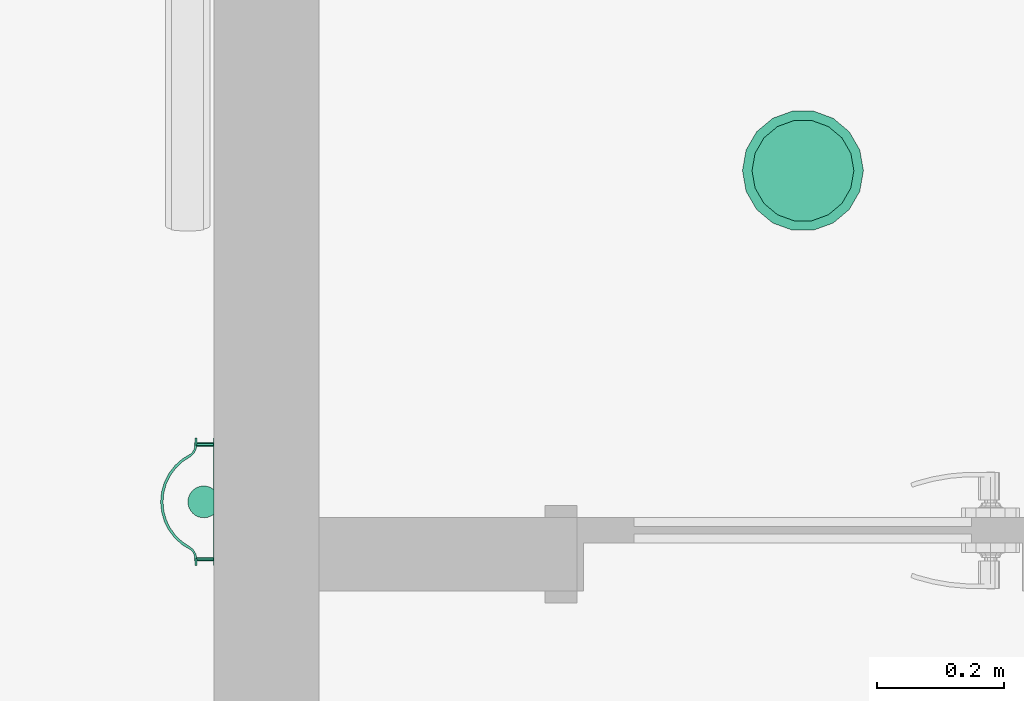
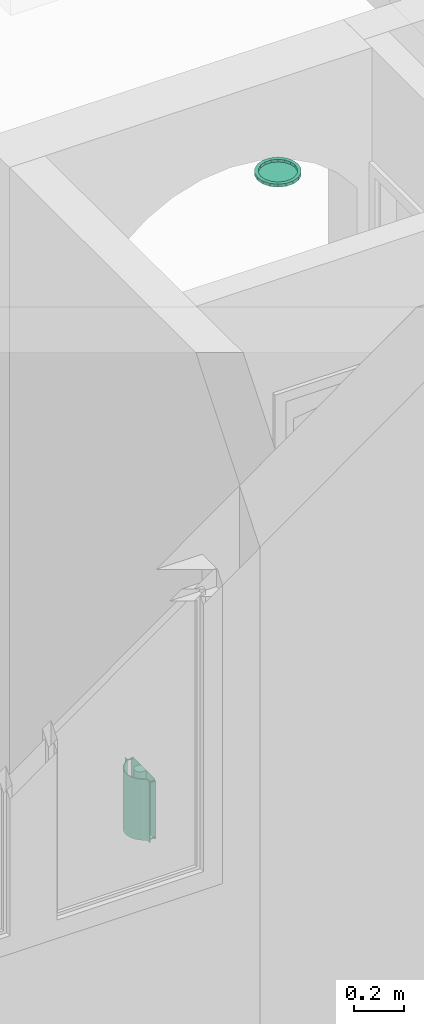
# One storey, part 47 of 77: 2 flow terminals.
"""IFC2X3 building model written with IfcOpenShell, lengths in inches."""

from ifc_helpers import new_model, entity, si_unit, converted_unit, derived_unit, money_unit, direction, frame, origin_with_axes, place, context, subcontext, project, spatial, open_shell, faceted_brep, surface_model, source, transform, mapped, type_object, element, save


model = new_model("IFC2X3")

# Units and contexts
model_context = context("Model", 3, precision=0.000393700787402, world=origin_with_axes(), true_north=direction((0.0, 1.0)))
body_context = subcontext(model_context, "Body", "Model", "MODEL_VIEW")
ifc_project = project(units=[converted_unit("LENGTHUNIT", "INCH", entity("IfcPositiveLengthMeasure", 0.0254), si_unit("LENGTHUNIT", "METRE"), dimensions=[1, 0, 0, 0, 0, 0, 0]), converted_unit("AREAUNIT", "SQUARE_FOOT", entity("IfcPositiveLengthMeasure", 0.09290304), si_unit("AREAUNIT", "SQUARE_METRE"), dimensions=[2, 0, 0, 0, 0, 0, 0]), si_unit("PLANEANGLEUNIT", "RADIAN"), si_unit("SOLIDANGLEUNIT", "STERADIAN"), money_unit("USD"), converted_unit("TIMEUNIT", "Year", entity("IfcTimeMeasure", 31556926.0), si_unit("TIMEUNIT", "SECOND"), dimensions=[0, 0, 1, 0, 0, 0, 0]), si_unit("MASSUNIT", "GRAM", prefix="KILO"), si_unit("THERMODYNAMICTEMPERATUREUNIT", "DEGREE_CELSIUS"), si_unit("LUMINOUSINTENSITYUNIT", "LUMEN"), si_unit("ENERGYUNIT", "JOULE", prefix="MEGA"), derived_unit("THERMALCONDUCTANCEUNIT", [(si_unit("POWERUNIT", "WATT"), 1), (si_unit("LENGTHUNIT", "METRE"), -1), (si_unit("THERMODYNAMICTEMPERATUREUNIT", "KELVIN"), -1)]), derived_unit("SPECIFICHEATCAPACITYUNIT", [(si_unit("ENERGYUNIT", "JOULE"), 1), (si_unit("MASSUNIT", "GRAM", prefix="KILO"), -1), (si_unit("THERMODYNAMICTEMPERATUREUNIT", "KELVIN"), -1)]), derived_unit("MASSDENSITYUNIT", [(si_unit("MASSUNIT", "GRAM", prefix="KILO"), 1), (si_unit("VOLUMEUNIT", "CUBIC_METRE"), -1)])], contexts=[model_context])

# Site, building, storey
site_placement = place(None, origin_with_axes())
site = spatial("IfcSite", under=ifc_project, at=site_placement, Name="Site", CompositionType="ELEMENT")
building_placement = place(site_placement, origin_with_axes())
building = spatial("IfcBuilding", under=site, at=building_placement, Name="Building", CompositionType="ELEMENT")
storey_placement = place(building_placement, frame((0.0, 0.0, 127.952755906), z_axis=(0.0, 0.0, 1.0), x_axis=(1.0, 0.0, 0.0)))
storey = spatial("IfcBuildingStorey", under=building, at=storey_placement, Name="Second Floor", CompositionType="ELEMENT", Elevation=127.953)

# Flow terminals
light_fixture_type_1 = type_object("IfcLightFixtureType", Name="Recessed Spot 25", PredefinedType="NOTDEFINED")
shared_shape_1 = source(origin_with_axes(), body_context, "Body", "SurfaceModel", [
    faceted_brep([(3.74015748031, 0.0, -0.590551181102), (3.51459838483, 1.27920919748, -0.590551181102), (3.51459838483, 1.27920919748, 0.0), (3.74015748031, 0.0, 0.0), (3.51459838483, -1.27920919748, -0.590551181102), (2.86512685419, -2.40412688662, -0.590551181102), (1.87007874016, -3.23907139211, -0.590551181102), (0.649471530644, -3.6833360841, -0.590551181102), (-0.649471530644, -3.6833360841, -0.590551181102), (-1.87007874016, -3.23907139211, -0.590551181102), (-2.86512685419, -2.40412688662, -0.590551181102), (-3.51459838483, -1.27920919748, -0.590551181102), (-3.74015748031, 0.0, -0.590551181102), (-3.51459838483, 1.27920919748, -0.590551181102), (-2.86512685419, 2.40412688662, -0.590551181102), (-1.87007874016, 3.23907139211, -0.590551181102), (-0.649471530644, 3.6833360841, -0.590551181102), (0.649471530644, 3.6833360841, -0.590551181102), (1.87007874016, 3.23907139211, -0.590551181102), (2.86512685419, 2.40412688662, -0.590551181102), (3.14960629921, 0.0, -0.590551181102), (2.95966179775, 1.07722879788, -0.590551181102), (2.41273840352, 2.02452790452, -0.590551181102), (1.57480314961, 2.72763906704, -0.590551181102), (0.546923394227, 3.1017567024, -0.590551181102), (-0.546923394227, 3.1017567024, -0.590551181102), (-1.57480314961, 2.72763906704, -0.590551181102), (-2.41273840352, 2.02452790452, -0.590551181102), (-2.95966179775, 1.07722879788, -0.590551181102), (-3.14960629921, 0.0, -0.590551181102), (-2.95966179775, -1.07722879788, -0.590551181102), (-2.41273840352, -2.02452790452, -0.590551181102), (-1.57480314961, -2.72763906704, -0.590551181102), (-0.546923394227, -3.1017567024, -0.590551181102), (0.546923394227, -3.1017567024, -0.590551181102), (1.57480314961, -2.72763906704, -0.590551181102), (2.41273840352, -2.02452790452, -0.590551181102), (2.95966179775, -1.07722879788, -0.590551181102), (2.86512685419, 2.40412688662, 0.0), (1.87007874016, 3.23907139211, 0.0), (0.649471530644, 3.6833360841, 0.0), (-0.649471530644, 3.6833360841, 0.0), (-1.87007874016, 3.23907139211, 0.0), (-2.86512685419, 2.40412688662, 0.0), (-3.51459838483, 1.27920919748, 0.0), (-3.74015748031, 0.0, 0.0), (-3.51459838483, -1.27920919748, 0.0), (-2.86512685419, -2.40412688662, 0.0), (-1.87007874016, -3.23907139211, 0.0), (-0.649471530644, -3.6833360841, 0.0), (0.649471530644, -3.6833360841, 0.0), (1.87007874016, -3.23907139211, 0.0), (2.86512685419, -2.40412688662, 0.0), (3.51459838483, -1.27920919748, 0.0), (3.14960629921, 0.0, 0.0), (2.95966179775, -1.07722879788, 0.0), (2.41273840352, -2.02452790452, 0.0), (1.57480314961, -2.72763906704, 0.0), (0.546923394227, -3.1017567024, 0.0), (-0.546923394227, -3.1017567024, 0.0), (-1.57480314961, -2.72763906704, 0.0), (-2.41273840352, -2.02452790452, 0.0), (-2.95966179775, -1.07722879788, 0.0), (-3.14960629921, 0.0, 0.0), (-2.95966179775, 1.07722879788, 0.0), (-2.41273840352, 2.02452790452, 0.0), (-1.57480314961, 2.72763906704, 0.0), (-0.546923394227, 3.1017567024, 0.0), (0.546923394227, 3.1017567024, 0.0), (1.57480314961, 2.72763906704, 0.0), (2.41273840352, 2.02452790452, 0.0), (2.95966179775, 1.07722879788, 0.0)], [[[0, 1, 2, 3]], [[0, 4, 5, 6, 7, 8, 9, 10, 11, 12, 13, 14, 15, 16, 17, 18, 19, 1], [20, 21, 22, 23, 24, 25, 26, 27, 28, 29, 30, 31, 32, 33, 34, 35, 36, 37]], [[1, 19, 38, 2]], [[3, 2, 38, 39, 40, 41, 42, 43, 44, 45, 46, 47, 48, 49, 50, 51, 52, 53], [54, 55, 56, 57, 58, 59, 60, 61, 62, 63, 64, 65, 66, 67, 68, 69, 70, 71]], [[4, 0, 3, 53]], [[5, 4, 53, 52]], [[6, 5, 52, 51]], [[7, 6, 51, 50]], [[8, 7, 50, 49]], [[9, 8, 49, 48]], [[10, 9, 48, 47]], [[11, 10, 47, 46]], [[12, 11, 46, 45]], [[13, 12, 45, 44]], [[14, 13, 44, 43]], [[15, 14, 43, 42]], [[16, 15, 42, 41]], [[17, 16, 41, 40]], [[18, 17, 40, 39]], [[19, 18, 39, 38]], [[21, 20, 54, 71]], [[22, 21, 71, 70]], [[23, 22, 70, 69]], [[24, 23, 69, 68]], [[25, 24, 68, 67]], [[26, 25, 67, 66]], [[27, 26, 66, 65]], [[28, 27, 65, 64]], [[29, 28, 64, 63]], [[30, 29, 63, 62]], [[31, 30, 62, 61]], [[32, 31, 61, 60]], [[33, 32, 60, 59]], [[34, 33, 59, 58]], [[35, 34, 58, 57]], [[36, 35, 57, 56]], [[37, 36, 56, 55]], [[20, 37, 55, 54]]]),
    surface_model("IfcShellBasedSurfaceModel", [(3.14960629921, 0.0, -0.527559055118), (2.95966179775, -1.07722879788, -0.527559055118), (2.41273840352, -2.02452790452, -0.527559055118), (1.57480314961, -2.72763906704, -0.527559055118), (0.546923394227, -3.1017567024, -0.527559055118), (-0.546923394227, -3.1017567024, -0.527559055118), (-1.57480314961, -2.72763906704, -0.527559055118), (-2.41273840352, -2.02452790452, -0.527559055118), (-2.95966179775, -1.07722879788, -0.527559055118), (-3.14960629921, 0.0, -0.527559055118), (-2.95966179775, 1.07722879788, -0.527559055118), (-2.41273840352, 2.02452790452, -0.527559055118), (-1.57480314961, 2.72763906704, -0.527559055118), (-0.546923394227, 3.1017567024, -0.527559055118), (0.546923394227, 3.1017567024, -0.527559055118), (1.57480314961, 2.72763906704, -0.527559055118), (2.41273840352, 2.02452790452, -0.527559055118), (2.95966179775, 1.07722879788, -0.527559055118)], [open_shell([[[0, 1, 2, 3, 4, 5, 6, 7, 8, 9, 10, 11, 12, 13, 14, 15, 16, 17]]])]),
])
flow_terminal_1_placement = place(storey_placement, frame((763.47817321, 70.4025893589, 120.094488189), z_axis=(0.0, 0.0, 1.0), x_axis=(1.0, 0.0, 0.0)))
element("IfcFlowTerminal", 1, at=flow_terminal_1_placement, inside=storey, type_object=light_fixture_type_1, Name="L-03", context=body_context, shape_type="MappedRepresentation", body=[
    mapped(shared_shape_1, transform((0.0, 0.0, 0.0))),
])
light_fixture_type_2 = type_object("IfcLightFixtureType", Name="Wall Lamp 25", PredefinedType="NOTDEFINED")
shared_shape_2 = source(origin_with_axes(), body_context, "Body", "Brep", [
    faceted_brep([(3.93700787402, -1.06299212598, 0.0), (3.59199112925, -1.06314352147, 0.0), (3.59199112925, -1.06314352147, 11.811023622), (3.93700787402, -1.06299212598, 11.811023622), (3.93700787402, -1.1811023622, 0.0), (3.54330708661, -1.1811023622, 0.0), (3.38969265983, -1.19623206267, 0.0), (3.24198154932, -1.24103973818, 0.0), (3.10585021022, -1.31380345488, 0.0), (2.98653009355, -1.41172694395, 0.0), (2.66966529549, -1.94556474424, 0.0), (2.25851711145, -2.41069189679, 0.0), (1.76760587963, -2.7906817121, 0.0), (1.2142688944, -3.0721142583, 0.0), (0.618048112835, -3.24505030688, 0.0), (0.0, -3.30338235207, 0.0), (0.0, -3.14960629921, 0.0), (0.56588522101, -3.09835339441, 0.0), (1.11335337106, -2.94626273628, 0.0), (1.6245867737, -2.6982842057, 0.0), (2.0829470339, -2.3624884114, 0.0), (2.47351654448, -1.94980402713, 0.0), (2.78358398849, -1.47366211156, 0.0), (2.90306916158, -1.32652027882, 0.0), (3.0505358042, -1.20743621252, 0.0), (3.21953891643, -1.12161445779, 0.0), (3.40269225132, -1.07280583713, 0.0), (3.40269225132, -1.07280583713, 11.811023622), (3.21953891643, -1.12161445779, 11.811023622), (3.0505358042, -1.20743621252, 11.811023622), (2.90306916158, -1.32652027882, 11.811023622), (2.78358398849, -1.47366211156, 11.811023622), (2.47351654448, -1.94980402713, 11.811023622), (2.0829470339, -2.3624884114, 11.811023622), (1.6245867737, -2.6982842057, 11.811023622), (1.11335337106, -2.94626273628, 11.811023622), (0.56588522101, -3.09835339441, 11.811023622), (0.0, -3.14960629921, 11.811023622), (0.0, -3.30338235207, 11.811023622), (0.618048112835, -3.24505030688, 11.811023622), (1.2142688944, -3.0721142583, 11.811023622), (1.76760587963, -2.7906817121, 11.811023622), (2.25851711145, -2.41069189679, 11.811023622), (2.66966529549, -1.94556474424, 11.811023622), (2.98653009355, -1.41172694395, 11.811023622), (3.10585021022, -1.31380345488, 11.811023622), (3.24198154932, -1.24103973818, 11.811023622), (3.38969265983, -1.19623206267, 11.811023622), (3.54330708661, -1.1811023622, 11.811023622), (3.93700787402, -1.1811023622, 11.811023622)], [[[0, 1, 2, 3]], [[0, 4, 5, 6, 7, 8, 9, 10, 11, 12, 13, 14, 15, 16, 17, 18, 19, 20, 21, 22, 23, 24, 25, 26, 1]], [[1, 26, 27, 2]], [[3, 2, 27, 28, 29, 30, 31, 32, 33, 34, 35, 36, 37, 38, 39, 40, 41, 42, 43, 44, 45, 46, 47, 48, 49]], [[4, 0, 3, 49]], [[5, 4, 49, 48]], [[6, 5, 48, 47]], [[7, 6, 47, 46]], [[8, 7, 46, 45]], [[9, 8, 45, 44]], [[10, 9, 44, 43]], [[11, 10, 43, 42]], [[12, 11, 42, 41]], [[13, 12, 41, 40]], [[14, 13, 40, 39]], [[15, 14, 39, 38]], [[16, 15, 38, 37]], [[17, 16, 37, 36]], [[18, 17, 36, 35]], [[19, 18, 35, 34]], [[20, 19, 34, 33]], [[21, 20, 33, 32]], [[22, 21, 32, 31]], [[23, 22, 31, 30]], [[24, 23, 30, 29]], [[25, 24, 29, 28]], [[26, 25, 28, 27]]]),
    faceted_brep([(-3.93700787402, -1.06299212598, 0.0), (-3.93700787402, -1.06299212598, 11.811023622), (-3.59199112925, -1.06314352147, 11.811023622), (-3.59199112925, -1.06314352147, 0.0), (-3.93700787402, -1.1811023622, 0.0), (-3.93700787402, -1.1811023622, 11.811023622), (-3.54330708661, -1.1811023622, 11.811023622), (-3.38969265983, -1.19623206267, 11.811023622), (-3.24198154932, -1.24103973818, 11.811023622), (-3.10585021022, -1.31380345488, 11.811023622), (-2.98653009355, -1.41172694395, 11.811023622), (-2.66966529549, -1.94556474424, 11.811023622), (-2.25851711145, -2.41069189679, 11.811023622), (-1.76760587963, -2.7906817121, 11.811023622), (-1.2142688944, -3.0721142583, 11.811023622), (-0.618048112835, -3.24505030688, 11.811023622), (0.0, -3.30338235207, 11.811023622), (0.0, -3.14960629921, 11.811023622), (-0.56588522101, -3.09835339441, 11.811023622), (-1.11335337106, -2.94626273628, 11.811023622), (-1.6245867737, -2.6982842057, 11.811023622), (-2.0829470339, -2.3624884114, 11.811023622), (-2.47351654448, -1.94980402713, 11.811023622), (-2.78358398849, -1.47366211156, 11.811023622), (-2.90306916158, -1.32652027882, 11.811023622), (-3.0505358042, -1.20743621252, 11.811023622), (-3.21953891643, -1.12161445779, 11.811023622), (-3.40269225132, -1.07280583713, 11.811023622), (-3.40269225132, -1.07280583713, 0.0), (-3.21953891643, -1.12161445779, 0.0), (-3.0505358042, -1.20743621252, 0.0), (-2.90306916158, -1.32652027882, 0.0), (-2.78358398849, -1.47366211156, 0.0), (-2.47351654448, -1.94980402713, 0.0), (-2.0829470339, -2.3624884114, 0.0), (-1.6245867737, -2.6982842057, 0.0), (-1.11335337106, -2.94626273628, 0.0), (-0.56588522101, -3.09835339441, 0.0), (0.0, -3.14960629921, 0.0), (0.0, -3.30338235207, 0.0), (-0.618048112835, -3.24505030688, 0.0), (-1.2142688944, -3.0721142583, 0.0), (-1.76760587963, -2.7906817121, 0.0), (-2.25851711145, -2.41069189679, 0.0), (-2.66966529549, -1.94556474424, 0.0), (-2.98653009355, -1.41172694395, 0.0), (-3.10585021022, -1.31380345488, 0.0), (-3.24198154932, -1.24103973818, 0.0), (-3.38969265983, -1.19623206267, 0.0), (-3.54330708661, -1.1811023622, 0.0)], [[[0, 1, 2, 3]], [[4, 5, 1, 0]], [[1, 5, 6, 7, 8, 9, 10, 11, 12, 13, 14, 15, 16, 17, 18, 19, 20, 21, 22, 23, 24, 25, 26, 27, 2]], [[3, 2, 27, 28]], [[0, 3, 28, 29, 30, 31, 32, 33, 34, 35, 36, 37, 38, 39, 40, 41, 42, 43, 44, 45, 46, 47, 48, 49, 4]], [[49, 6, 5, 4]], [[48, 7, 6, 49]], [[47, 8, 7, 48]], [[46, 9, 8, 47]], [[45, 10, 9, 46]], [[44, 11, 10, 45]], [[43, 12, 11, 44]], [[42, 13, 12, 43]], [[41, 14, 13, 42]], [[40, 15, 14, 41]], [[39, 16, 15, 40]], [[38, 17, 16, 39]], [[37, 18, 17, 38]], [[36, 19, 18, 37]], [[35, 20, 19, 36]], [[34, 21, 20, 35]], [[33, 22, 21, 34]], [[32, 23, 22, 33]], [[31, 24, 23, 32]], [[30, 25, 24, 31]], [[29, 26, 25, 30]], [[28, 27, 26, 29]]]),
    faceted_brep([(3.14960629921, 0.0, 0.0), (3.14960629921, -0.0393700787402, 0.0), (-3.14960629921, -0.0393700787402, 0.0), (-3.14960629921, 0.0, 0.0), (3.303220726, 0.0, 0.0151297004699), (3.303220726, -0.0393700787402, 0.0151297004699), (3.45093183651, -0.0393700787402, 0.0599373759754), (3.58706317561, -0.0393700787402, 0.132701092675), (3.70638329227, -0.0393700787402, 0.230624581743), (3.80430678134, -0.0393700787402, 0.34994469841), (3.87707049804, -0.0393700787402, 0.486076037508), (3.92187817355, -0.0393700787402, 0.633787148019), (3.93700787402, -0.0393700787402, 0.787401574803), (3.93700787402, -0.0393700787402, 11.0236220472), (3.92187817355, -0.0393700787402, 11.177236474), (3.87707049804, -0.0393700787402, 11.3249475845), (3.80430678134, -0.0393700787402, 11.4610789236), (3.70638329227, -0.0393700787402, 11.5803990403), (3.58706317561, -0.0393700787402, 11.6783225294), (3.45093183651, -0.0393700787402, 11.7510862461), (3.303220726, -0.0393700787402, 11.7958939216), (3.14960629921, -0.0393700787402, 11.811023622), (-3.14960629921, -0.0393700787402, 11.811023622), (-3.303220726, -0.0393700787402, 11.7958939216), (-3.45093183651, -0.0393700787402, 11.7510862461), (-3.58706317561, -0.0393700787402, 11.6783225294), (-3.70638329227, -0.0393700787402, 11.5803990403), (-3.80430678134, -0.0393700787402, 11.4610789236), (-3.87707049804, -0.0393700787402, 11.3249475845), (-3.92187817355, -0.0393700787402, 11.177236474), (-3.93700787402, -0.0393700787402, 11.0236220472), (-3.93700787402, -0.0393700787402, 0.787401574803), (-3.92187817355, -0.0393700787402, 0.633787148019), (-3.87707049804, -0.0393700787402, 0.486076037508), (-3.80430678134, -0.0393700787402, 0.34994469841), (-3.70638329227, -0.0393700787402, 0.230624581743), (-3.58706317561, -0.0393700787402, 0.132701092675), (-3.45093183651, -0.0393700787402, 0.0599373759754), (-3.303220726, -0.0393700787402, 0.0151297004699), (-3.303220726, 0.0, 0.0151297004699), (-3.45093183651, 0.0, 0.0599373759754), (-3.58706317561, 0.0, 0.132701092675), (-3.70638329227, 0.0, 0.230624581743), (-3.80430678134, 0.0, 0.34994469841), (-3.87707049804, 0.0, 0.486076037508), (-3.92187817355, 0.0, 0.633787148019), (-3.93700787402, 0.0, 0.787401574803), (-3.93700787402, 0.0, 11.0236220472), (-3.92187817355, 0.0, 11.177236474), (-3.87707049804, 0.0, 11.3249475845), (-3.80430678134, 0.0, 11.4610789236), (-3.70638329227, 0.0, 11.5803990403), (-3.58706317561, 0.0, 11.6783225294), (-3.45093183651, 0.0, 11.7510862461), (-3.303220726, 0.0, 11.7958939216), (-3.14960629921, 0.0, 11.811023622), (3.14960629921, 0.0, 11.811023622), (3.303220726, 0.0, 11.7958939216), (3.45093183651, 0.0, 11.7510862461), (3.58706317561, 0.0, 11.6783225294), (3.70638329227, 0.0, 11.5803990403), (3.80430678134, 0.0, 11.4610789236), (3.87707049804, 0.0, 11.3249475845), (3.92187817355, 0.0, 11.177236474), (3.93700787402, 0.0, 11.0236220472), (3.93700787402, 0.0, 0.787401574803), (3.92187817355, 0.0, 0.633787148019), (3.87707049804, 0.0, 0.486076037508), (3.80430678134, 0.0, 0.34994469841), (3.70638329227, 0.0, 0.230624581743), (3.58706317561, 0.0, 0.132701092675), (3.45093183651, 0.0, 0.0599373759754)], [[[0, 1, 2, 3]], [[4, 5, 1, 0]], [[1, 5, 6, 7, 8, 9, 10, 11, 12, 13, 14, 15, 16, 17, 18, 19, 20, 21, 22, 23, 24, 25, 26, 27, 28, 29, 30, 31, 32, 33, 34, 35, 36, 37, 38, 2]], [[3, 2, 38, 39]], [[0, 3, 39, 40, 41, 42, 43, 44, 45, 46, 47, 48, 49, 50, 51, 52, 53, 54, 55, 56, 57, 58, 59, 60, 61, 62, 63, 64, 65, 66, 67, 68, 69, 70, 71, 4]], [[71, 6, 5, 4]], [[70, 7, 6, 71]], [[69, 8, 7, 70]], [[68, 9, 8, 69]], [[67, 10, 9, 68]], [[66, 11, 10, 67]], [[65, 12, 11, 66]], [[64, 13, 12, 65]], [[63, 14, 13, 64]], [[62, 15, 14, 63]], [[61, 16, 15, 62]], [[60, 17, 16, 61]], [[59, 18, 17, 60]], [[58, 19, 18, 59]], [[57, 20, 19, 58]], [[56, 21, 20, 57]], [[55, 22, 21, 56]], [[54, 23, 22, 55]], [[53, 24, 23, 54]], [[52, 25, 24, 53]], [[51, 26, 25, 52]], [[50, 27, 26, 51]], [[49, 28, 27, 50]], [[48, 29, 28, 49]], [[47, 30, 29, 48]], [[46, 31, 30, 47]], [[45, 32, 31, 46]], [[44, 33, 32, 45]], [[43, 34, 33, 44]], [[42, 35, 34, 43]], [[41, 36, 35, 42]], [[40, 37, 36, 41]], [[39, 38, 37, 40]]]),
    faceted_brep([(3.66141732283, -0.0393700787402, 0.393700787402), (3.60236220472, -0.0393700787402, 0.495987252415), (3.60236220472, -1.22047244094, 0.495987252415), (3.66141732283, -1.22047244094, 0.393700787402), (3.60236220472, -0.0393700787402, 0.291414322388), (3.4842519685, -0.0393700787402, 0.291414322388), (3.42519685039, -0.0393700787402, 0.393700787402), (3.4842519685, -0.0393700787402, 0.495987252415), (3.4842519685, -1.22047244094, 0.495987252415), (3.42519685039, -1.22047244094, 0.393700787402), (3.4842519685, -1.22047244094, 0.291414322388), (3.60236220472, -1.22047244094, 0.291414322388)], [[[0, 1, 2, 3]], [[0, 4, 5, 6, 7, 1]], [[1, 7, 8, 2]], [[3, 2, 8, 9, 10, 11]], [[4, 0, 3, 11]], [[5, 4, 11, 10]], [[6, 5, 10, 9]], [[7, 6, 9, 8]]]),
    faceted_brep([(-3.42519685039, -0.0393700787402, 0.393700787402), (-3.4842519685, -0.0393700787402, 0.495987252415), (-3.4842519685, -1.22047244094, 0.495987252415), (-3.42519685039, -1.22047244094, 0.393700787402), (-3.4842519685, -0.0393700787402, 0.291414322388), (-3.60236220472, -0.0393700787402, 0.291414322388), (-3.66141732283, -0.0393700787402, 0.393700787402), (-3.60236220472, -0.0393700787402, 0.495987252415), (-3.60236220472, -1.22047244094, 0.495987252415), (-3.66141732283, -1.22047244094, 0.393700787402), (-3.60236220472, -1.22047244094, 0.291414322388), (-3.4842519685, -1.22047244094, 0.291414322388)], [[[0, 1, 2, 3]], [[0, 4, 5, 6, 7, 1]], [[1, 7, 8, 2]], [[3, 2, 8, 9, 10, 11]], [[4, 0, 3, 11]], [[5, 4, 11, 10]], [[6, 5, 10, 9]], [[7, 6, 9, 8]]]),
    faceted_brep([(3.66141732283, -0.0393700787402, 11.4173228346), (3.60236220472, -0.0393700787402, 11.5196092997), (3.60236220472, -1.22047244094, 11.5196092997), (3.66141732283, -1.22047244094, 11.4173228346), (3.60236220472, -0.0393700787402, 11.3150363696), (3.4842519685, -0.0393700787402, 11.3150363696), (3.42519685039, -0.0393700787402, 11.4173228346), (3.4842519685, -0.0393700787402, 11.5196092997), (3.4842519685, -1.22047244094, 11.5196092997), (3.42519685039, -1.22047244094, 11.4173228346), (3.4842519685, -1.22047244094, 11.3150363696), (3.60236220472, -1.22047244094, 11.3150363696)], [[[0, 1, 2, 3]], [[0, 4, 5, 6, 7, 1]], [[1, 7, 8, 2]], [[3, 2, 8, 9, 10, 11]], [[4, 0, 3, 11]], [[5, 4, 11, 10]], [[6, 5, 10, 9]], [[7, 6, 9, 8]]]),
    faceted_brep([(-3.42519685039, -0.0393700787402, 11.4173228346), (-3.4842519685, -0.0393700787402, 11.5196092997), (-3.4842519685, -1.22047244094, 11.5196092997), (-3.42519685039, -1.22047244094, 11.4173228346), (-3.4842519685, -0.0393700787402, 11.3150363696), (-3.60236220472, -0.0393700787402, 11.3150363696), (-3.66141732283, -0.0393700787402, 11.4173228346), (-3.60236220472, -0.0393700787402, 11.5196092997), (-3.60236220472, -1.22047244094, 11.5196092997), (-3.66141732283, -1.22047244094, 11.4173228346), (-3.60236220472, -1.22047244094, 11.3150363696), (-3.4842519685, -1.22047244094, 11.3150363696)], [[[0, 1, 2, 3]], [[0, 4, 5, 6, 7, 1]], [[1, 7, 8, 2]], [[3, 2, 8, 9, 10, 11]], [[4, 0, 3, 11]], [[5, 4, 11, 10]], [[6, 5, 10, 9]], [[7, 6, 9, 8]]]),
    faceted_brep([(-0.787401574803, -0.0393700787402, 0.0), (-0.889578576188, -0.208730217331, 0.0), (-0.889578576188, -0.208730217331, 0.984251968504), (-0.787401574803, -0.0393700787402, 0.984251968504), (0.787401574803, -0.0393700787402, 0.0), (0.889578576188, -0.208730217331, 0.0), (0.955829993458, -0.39510013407, 0.0), (0.983480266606, -0.590953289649, 0.0), (0.9714127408, -0.78838016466, 0.0), (0.920114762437, -0.979407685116, 0.0), (0.83165799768, -1.15632121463, 0.0), (0.709614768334, -1.31197610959, 0.0), (0.558913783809, -1.44008625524, 0.0), (0.385641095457, -1.53547793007, 0.0), (0.196794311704, -1.5942987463, 0.0), (0.0, -1.61417322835, 0.0), (-0.196794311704, -1.5942987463, 0.0), (-0.385641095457, -1.53547793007, 0.0), (-0.558913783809, -1.44008625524, 0.0), (-0.709614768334, -1.31197610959, 0.0), (-0.83165799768, -1.15632121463, 0.0), (-0.920114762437, -0.979407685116, 0.0), (-0.9714127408, -0.78838016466, 0.0), (-0.983480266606, -0.590953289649, 0.0), (-0.955829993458, -0.39510013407, 0.0), (-0.955829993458, -0.39510013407, 0.984251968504), (-0.983480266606, -0.590953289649, 0.984251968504), (-0.9714127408, -0.78838016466, 0.984251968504), (-0.920114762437, -0.979407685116, 0.984251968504), (-0.83165799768, -1.15632121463, 0.984251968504), (-0.709614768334, -1.31197610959, 0.984251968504), (-0.558913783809, -1.44008625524, 0.984251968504), (-0.385641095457, -1.53547793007, 0.984251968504), (-0.196794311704, -1.5942987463, 0.984251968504), (0.0, -1.61417322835, 0.984251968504), (0.196794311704, -1.5942987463, 0.984251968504), (0.385641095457, -1.53547793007, 0.984251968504), (0.558913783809, -1.44008625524, 0.984251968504), (0.709614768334, -1.31197610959, 0.984251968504), (0.83165799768, -1.15632121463, 0.984251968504), (0.920114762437, -0.979407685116, 0.984251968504), (0.9714127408, -0.78838016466, 0.984251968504), (0.983480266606, -0.590953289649, 0.984251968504), (0.955829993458, -0.39510013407, 0.984251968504), (0.889578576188, -0.208730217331, 0.984251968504), (0.787401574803, -0.0393700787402, 0.984251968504)], [[[0, 1, 2, 3]], [[0, 4, 5, 6, 7, 8, 9, 10, 11, 12, 13, 14, 15, 16, 17, 18, 19, 20, 21, 22, 23, 24, 1]], [[1, 24, 25, 2]], [[3, 2, 25, 26, 27, 28, 29, 30, 31, 32, 33, 34, 35, 36, 37, 38, 39, 40, 41, 42, 43, 44, 45]], [[4, 0, 3, 45]], [[5, 4, 45, 44]], [[6, 5, 44, 43]], [[7, 6, 43, 42]], [[8, 7, 42, 41]], [[9, 8, 41, 40]], [[10, 9, 40, 39]], [[11, 10, 39, 38]], [[12, 11, 38, 37]], [[13, 12, 37, 36]], [[14, 13, 36, 35]], [[15, 14, 35, 34]], [[16, 15, 34, 33]], [[17, 16, 33, 32]], [[18, 17, 32, 31]], [[19, 18, 31, 30]], [[20, 19, 30, 29]], [[21, 20, 29, 28]], [[22, 21, 28, 27]], [[23, 22, 27, 26]], [[24, 23, 26, 25]]]),
    faceted_brep([(-0.787401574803, -0.0393700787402, 10.8267716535), (-0.889578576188, -0.208730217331, 10.8267716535), (-0.889578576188, -0.208730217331, 11.811023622), (-0.787401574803, -0.0393700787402, 11.811023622), (0.787401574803, -0.0393700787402, 10.8267716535), (0.889578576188, -0.208730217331, 10.8267716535), (0.955829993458, -0.39510013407, 10.8267716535), (0.983480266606, -0.590953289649, 10.8267716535), (0.9714127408, -0.78838016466, 10.8267716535), (0.920114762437, -0.979407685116, 10.8267716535), (0.83165799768, -1.15632121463, 10.8267716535), (0.709614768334, -1.31197610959, 10.8267716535), (0.558913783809, -1.44008625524, 10.8267716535), (0.385641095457, -1.53547793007, 10.8267716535), (0.196794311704, -1.5942987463, 10.8267716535), (0.0, -1.61417322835, 10.8267716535), (-0.196794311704, -1.5942987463, 10.8267716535), (-0.385641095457, -1.53547793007, 10.8267716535), (-0.558913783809, -1.44008625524, 10.8267716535), (-0.709614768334, -1.31197610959, 10.8267716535), (-0.83165799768, -1.15632121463, 10.8267716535), (-0.920114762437, -0.979407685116, 10.8267716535), (-0.9714127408, -0.78838016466, 10.8267716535), (-0.983480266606, -0.590953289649, 10.8267716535), (-0.955829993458, -0.39510013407, 10.8267716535), (-0.955829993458, -0.39510013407, 11.811023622), (-0.983480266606, -0.590953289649, 11.811023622), (-0.9714127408, -0.78838016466, 11.811023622), (-0.920114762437, -0.979407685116, 11.811023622), (-0.83165799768, -1.15632121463, 11.811023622), (-0.709614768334, -1.31197610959, 11.811023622), (-0.558913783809, -1.44008625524, 11.811023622), (-0.385641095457, -1.53547793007, 11.811023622), (-0.196794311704, -1.5942987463, 11.811023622), (0.0, -1.61417322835, 11.811023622), (0.196794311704, -1.5942987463, 11.811023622), (0.385641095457, -1.53547793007, 11.811023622), (0.558913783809, -1.44008625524, 11.811023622), (0.709614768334, -1.31197610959, 11.811023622), (0.83165799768, -1.15632121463, 11.811023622), (0.920114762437, -0.979407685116, 11.811023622), (0.9714127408, -0.78838016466, 11.811023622), (0.983480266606, -0.590953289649, 11.811023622), (0.955829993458, -0.39510013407, 11.811023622), (0.889578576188, -0.208730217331, 11.811023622), (0.787401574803, -0.0393700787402, 11.811023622)], [[[0, 1, 2, 3]], [[0, 4, 5, 6, 7, 8, 9, 10, 11, 12, 13, 14, 15, 16, 17, 18, 19, 20, 21, 22, 23, 24, 1]], [[1, 24, 25, 2]], [[3, 2, 25, 26, 27, 28, 29, 30, 31, 32, 33, 34, 35, 36, 37, 38, 39, 40, 41, 42, 43, 44, 45]], [[4, 0, 3, 45]], [[5, 4, 45, 44]], [[6, 5, 44, 43]], [[7, 6, 43, 42]], [[8, 7, 42, 41]], [[9, 8, 41, 40]], [[10, 9, 40, 39]], [[11, 10, 39, 38]], [[12, 11, 38, 37]], [[13, 12, 37, 36]], [[14, 13, 36, 35]], [[15, 14, 35, 34]], [[16, 15, 34, 33]], [[17, 16, 33, 32]], [[18, 17, 32, 31]], [[19, 18, 31, 30]], [[20, 19, 30, 29]], [[21, 20, 29, 28]], [[22, 21, 28, 27]], [[23, 22, 27, 26]], [[24, 23, 26, 25]]]),
    faceted_brep([(-0.787401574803, -0.0393700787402, 0.984251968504), (-0.889578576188, -0.208730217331, 0.984251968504), (-0.889578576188, -0.208730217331, 10.8267716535), (-0.787401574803, -0.0393700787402, 10.8267716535), (0.787401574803, -0.0393700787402, 0.984251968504), (0.889578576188, -0.208730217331, 0.984251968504), (0.955829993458, -0.39510013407, 0.984251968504), (0.983480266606, -0.590953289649, 0.984251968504), (0.9714127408, -0.78838016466, 0.984251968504), (0.920114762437, -0.979407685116, 0.984251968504), (0.83165799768, -1.15632121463, 0.984251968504), (0.709614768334, -1.31197610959, 0.984251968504), (0.558913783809, -1.44008625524, 0.984251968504), (0.385641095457, -1.53547793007, 0.984251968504), (0.196794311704, -1.5942987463, 0.984251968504), (0.0, -1.61417322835, 0.984251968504), (-0.196794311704, -1.5942987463, 0.984251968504), (-0.385641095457, -1.53547793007, 0.984251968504), (-0.558913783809, -1.44008625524, 0.984251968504), (-0.709614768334, -1.31197610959, 0.984251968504), (-0.83165799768, -1.15632121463, 0.984251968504), (-0.920114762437, -0.979407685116, 0.984251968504), (-0.9714127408, -0.78838016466, 0.984251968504), (-0.983480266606, -0.590953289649, 0.984251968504), (-0.955829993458, -0.39510013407, 0.984251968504), (-0.955829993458, -0.39510013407, 10.8267716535), (-0.983480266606, -0.590953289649, 10.8267716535), (-0.9714127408, -0.78838016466, 10.8267716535), (-0.920114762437, -0.979407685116, 10.8267716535), (-0.83165799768, -1.15632121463, 10.8267716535), (-0.709614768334, -1.31197610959, 10.8267716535), (-0.558913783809, -1.44008625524, 10.8267716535), (-0.385641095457, -1.53547793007, 10.8267716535), (-0.196794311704, -1.5942987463, 10.8267716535), (0.0, -1.61417322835, 10.8267716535), (0.196794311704, -1.5942987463, 10.8267716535), (0.385641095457, -1.53547793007, 10.8267716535), (0.558913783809, -1.44008625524, 10.8267716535), (0.709614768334, -1.31197610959, 10.8267716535), (0.83165799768, -1.15632121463, 10.8267716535), (0.920114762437, -0.979407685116, 10.8267716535), (0.9714127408, -0.78838016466, 10.8267716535), (0.983480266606, -0.590953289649, 10.8267716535), (0.955829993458, -0.39510013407, 10.8267716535), (0.889578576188, -0.208730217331, 10.8267716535), (0.787401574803, -0.0393700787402, 10.8267716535)], [[[0, 1, 2, 3]], [[0, 4, 5, 6, 7, 8, 9, 10, 11, 12, 13, 14, 15, 16, 17, 18, 19, 20, 21, 22, 23, 24, 1]], [[1, 24, 25, 2]], [[3, 2, 25, 26, 27, 28, 29, 30, 31, 32, 33, 34, 35, 36, 37, 38, 39, 40, 41, 42, 43, 44, 45]], [[4, 0, 3, 45]], [[5, 4, 45, 44]], [[6, 5, 44, 43]], [[7, 6, 43, 42]], [[8, 7, 42, 41]], [[9, 8, 41, 40]], [[10, 9, 40, 39]], [[11, 10, 39, 38]], [[12, 11, 38, 37]], [[13, 12, 37, 36]], [[14, 13, 36, 35]], [[15, 14, 35, 34]], [[16, 15, 34, 33]], [[17, 16, 33, 32]], [[18, 17, 32, 31]], [[19, 18, 31, 30]], [[20, 19, 30, 29]], [[21, 20, 29, 28]], [[22, 21, 28, 27]], [[23, 22, 27, 26]], [[24, 23, 26, 25]]]),
])
flow_terminal_2_placement = place(storey_placement, frame((727.055974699, 49.9194402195, 17.9133858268), z_axis=(0.0, 0.0, 1.0), x_axis=(0.0, -1.0, 0.0)))
element("IfcFlowTerminal", 2, at=flow_terminal_2_placement, inside=storey, type_object=light_fixture_type_2, Name="L-17", context=body_context, shape_type="MappedRepresentation", body=[
    mapped(shared_shape_2, transform((0.0, 0.0, 0.0))),
])

save(model, "model.ifc")
